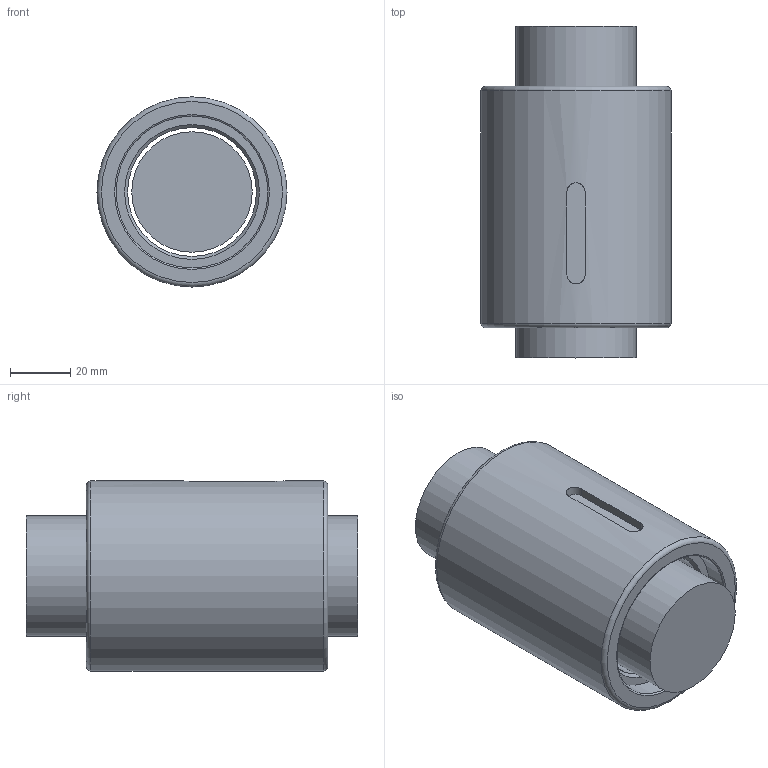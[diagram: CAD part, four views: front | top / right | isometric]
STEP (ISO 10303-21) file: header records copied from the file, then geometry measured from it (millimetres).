
FILE_DESCRIPTION(/* description */ (''),/* implementation_level */ '2;1');
FILE_NAME(/* name */ '4010.prt.step',/* time_stamp */ '2008-12-05T16:34:36+08:00',/* author */ (''),/* organization */ (''),/* preprocessor_version */ 'ST-DEVELOPER v11',/* originating_system */ 'SIEMENS UGS NX 6.0',/* authorisation */ '');
FILE_SCHEMA (('AUTOMOTIVE_DESIGN { 1 0 10303 214 1 1 1 1 }'));
Length unit declared in the file: millimetre
Products named in the file (1): 4010
Bounding box: 63 x 110 x 63 mm (x, y, z)
Volume: 263574.8 mm3; surface area: 46334.9 mm2
Topology: 2 solids, 2 shells, 22 faces, 45 edges, 29 vertices
Faces by surface type: plane 9, cylinder 7, torus 4, cone 2
Full cylindrical faces by diameter (mm): 39.95 x1, 42.7 x1, 50.3 x2, 63 x1
Entity records: 568 total; most frequent: CARTESIAN_POINT 135, DIRECTION 90, ORIENTED_EDGE 56, AXIS2_PLACEMENT_3D 41, EDGE_LOOP 38, FACE_BOUND 31, EDGE_CURVE 28, VERTEX_POINT 24
